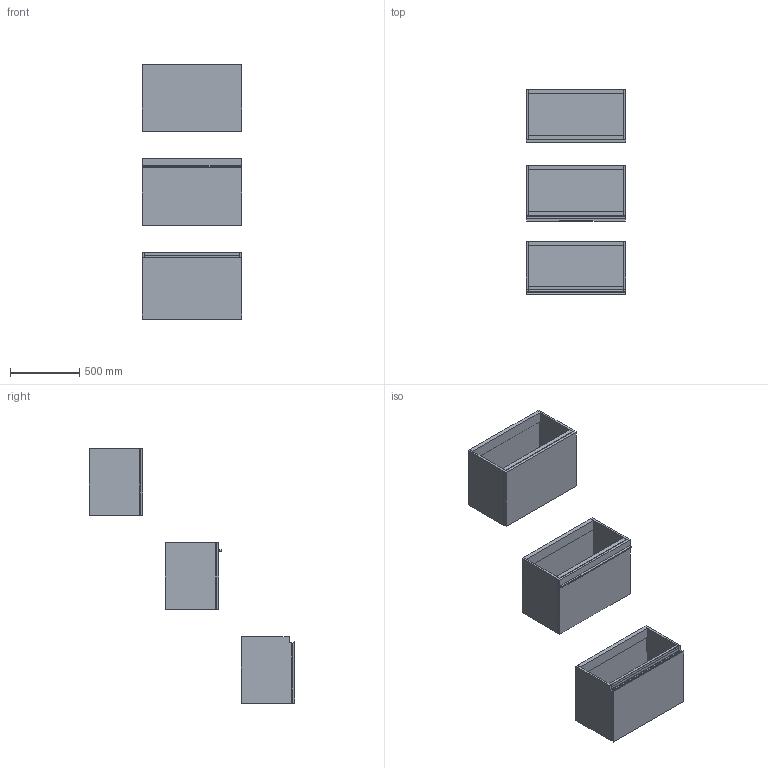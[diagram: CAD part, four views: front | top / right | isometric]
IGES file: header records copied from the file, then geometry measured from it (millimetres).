
Start section: Data from Parasolid IGES Translator 19.0.9, Copyright(c) 2006 Siemens PL M Software. All Rights Reserved.
Global section: file name: noorth-SI-H 48 D 38,8 W 72_8380.igs; native system: By Siemens PLM Incorporated; preprocessor: XPlus GENERIC/IGES 19.0.9; author: Noname; organization: Noname; date: 20200601.100441; units: metre
Bounding box: 720 x 1485.1 x 1840.01 mm (x, y, z)
Volume: 56700873.2 mm3; surface area: 8660710.4 mm2
Topology: 23 solids, 23 shells, 196 faces, 418 edges, 258 vertices
Faces by surface type: plane 152, extrusion 16, bspline 16, cylinder 12
